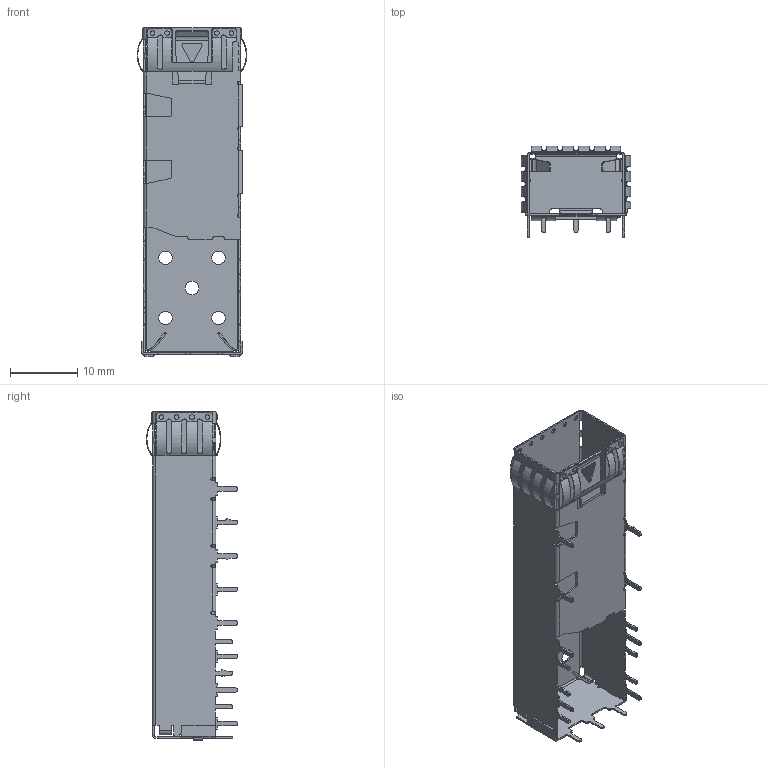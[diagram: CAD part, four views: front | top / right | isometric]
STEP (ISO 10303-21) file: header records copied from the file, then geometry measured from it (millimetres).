
FILE_DESCRIPTION((''),'2;1');
FILE_NAME('160865-00131_ASM_ASM','2022-08-01T',('05956'),(''),'CREO PARAMETRIC BY PTC INC, 2017170','CREO PARAMETRIC BY PTC INC, 2017170','');
FILE_SCHEMA(('CONFIG_CONTROL_DESIGN'));
Length unit declared in the file: millimetre
Products named in the file (1): 160865-00131_ASM_ASM
Bounding box: 16.34 x 13.62 x 48.99 mm (x, y, z)
Volume: 550.4 mm3; surface area: 4771.9 mm2
Topology: 1 solids, 1 shells, 1045 faces, 2920 edges, 1869 vertices
Faces by surface type: plane 551, cylinder 469, bspline 25
Entity records: 35068 total; most frequent: CARTESIAN_POINT 7422, DIRECTION 5861, ORIENTED_EDGE 5840, EDGE_CURVE 2920, AXIS2_PLACEMENT_3D 1999, VERTEX_POINT 1869, VECTOR 1863, LINE 1863
